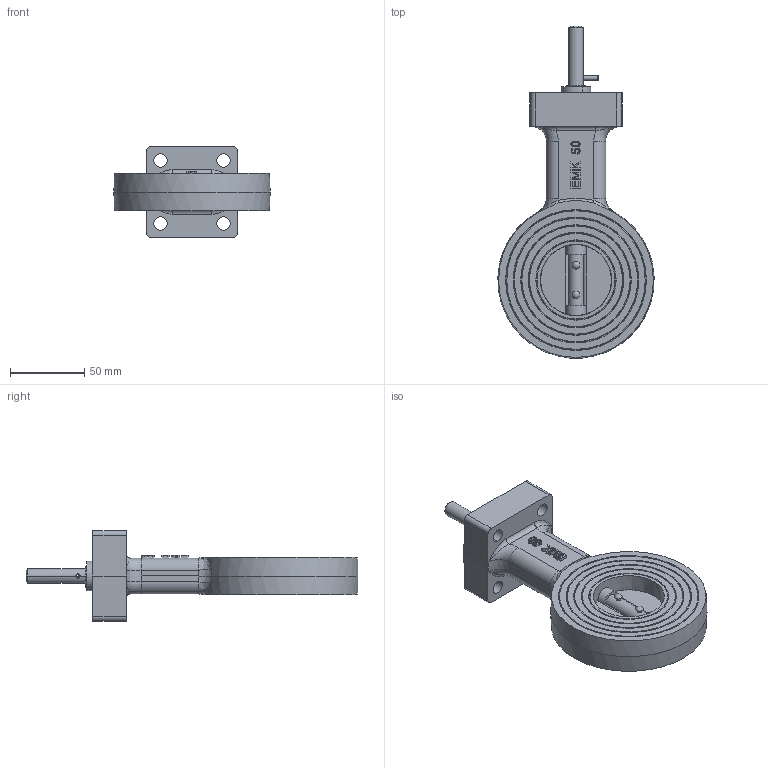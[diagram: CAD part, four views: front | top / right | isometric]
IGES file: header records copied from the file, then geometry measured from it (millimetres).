
Global section: file name: No Iges File Name specified; native system: AutoDesk Inventor R12.0; preprocessor: AutoDesk Inventor Iges Exporter R12.0; date: 20100819.090407; units: millimetre
Bounding box: 105.19 x 223.46 x 61 mm (x, y, z)
Volume: 304910.1 mm3; surface area: 60152.7 mm2
Topology: 1 solids, 1 shells, 391 faces, 1002 edges, 637 vertices
Faces by surface type: plane 177, bspline 110, cylinder 46, revolution 28, cone 22, sphere 4, torus 4
